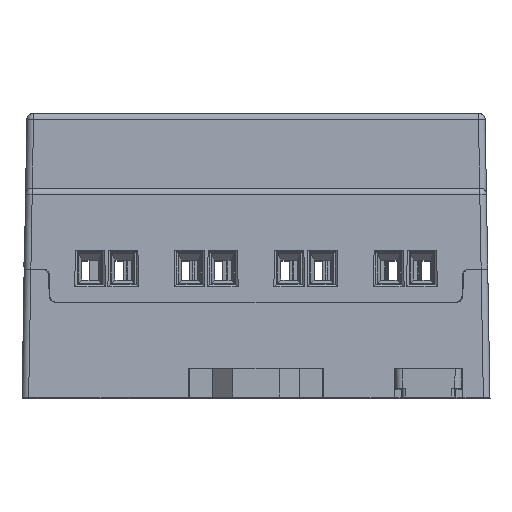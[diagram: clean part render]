
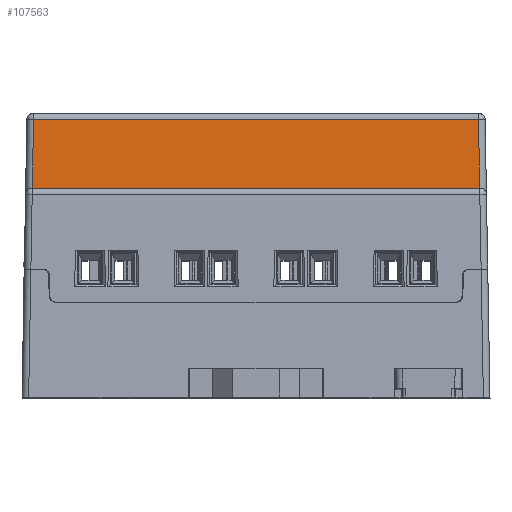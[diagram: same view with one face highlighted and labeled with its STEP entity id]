
A CAD part, top view. The second image highlights one B-rep face of the part: STEP entity #107563.
In plain terms, the highlighted planar face has unit normal (0, 0.018, 1).
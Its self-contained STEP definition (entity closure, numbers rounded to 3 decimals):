
#5709 = VECTOR ( 'NONE', #27781, 1000. ) ;
#8569 = CARTESIAN_POINT ( 'NONE',  ( -74.366, 31.032, 34.5 ) ) ;
#10416 = VERTEX_POINT ( 'NONE', #41630 ) ;
#11182 = CARTESIAN_POINT ( 'NONE',  ( -6.965, 31.055, 34.5 ) ) ;
#14677 = VERTEX_POINT ( 'NONE', #11182 ) ;
#27411 = DIRECTION ( 'NONE',  ( 0., 0.017, 1. ) ) ;
#27781 = DIRECTION ( 'NONE',  ( -0.017, 1., -0.017 ) ) ;
#35226 = VERTEX_POINT ( 'NONE', #48745 ) ;
#41103 = EDGE_CURVE ( 'NONE', #14677, #73764, #115781, .T. ) ;
#41630 = CARTESIAN_POINT ( 'NONE',  ( -74.365, 31.055, 34.5 ) ) ;
#43109 = ORIENTED_EDGE ( 'NONE', *, *, #57684, .T. ) ;
#47792 = PLANE ( 'NONE',  #122360 ) ;
#48745 = CARTESIAN_POINT ( 'NONE',  ( -74.185, 41.372, 34.32 ) ) ;
#49282 = DIRECTION ( 'NONE',  ( -1., 0., 0. ) ) ;
#57684 = EDGE_CURVE ( 'NONE', #10416, #14677, #108168, .T. ) ;
#65346 = LINE ( 'NONE', #8569, #113943 ) ;
#66575 = EDGE_CURVE ( 'NONE', #35226, #10416, #65346, .T. ) ;
#73383 = LINE ( 'NONE', #111260, #128492 ) ;
#73764 = VERTEX_POINT ( 'NONE', #124338 ) ;
#76347 = ORIENTED_EDGE ( 'NONE', *, *, #41103, .T. ) ;
#79376 = CARTESIAN_POINT ( 'NONE',  ( -6.986, 32.253, 34.479 ) ) ;
#80726 = DIRECTION ( 'NONE',  ( 1., 0., 0. ) ) ;
#89391 = CARTESIAN_POINT ( 'NONE',  ( -75.665, 31.055, 34.5 ) ) ;
#91361 = DIRECTION ( 'NONE',  ( -0.017, -1., 0.017 ) ) ;
#99836 = DIRECTION ( 'NONE',  ( 0., -1., 0.017 ) ) ;
#107563 = ADVANCED_FACE ( 'NONE', ( #108819 ), #47792, .T. ) ;
#108168 = LINE ( 'NONE', #132322, #132481 ) ;
#108819 = FACE_OUTER_BOUND ( 'NONE', #108955, .T. ) ;
#108955 = EDGE_LOOP ( 'NONE', ( #130174, #121029, #43109, #76347 ) ) ;
#111260 = CARTESIAN_POINT ( 'NONE',  ( -75.168, 41.372, 34.32 ) ) ;
#113943 = VECTOR ( 'NONE', #91361, 1000. ) ;
#115781 = LINE ( 'NONE', #79376, #5709 ) ;
#118949 = EDGE_CURVE ( 'NONE', #73764, #35226, #73383, .T. ) ;
#121029 = ORIENTED_EDGE ( 'NONE', *, *, #66575, .T. ) ;
#122360 = AXIS2_PLACEMENT_3D ( 'NONE', #89391, #27411, #99836 ) ;
#124338 = CARTESIAN_POINT ( 'NONE',  ( -7.145, 41.372, 34.32 ) ) ;
#128492 = VECTOR ( 'NONE', #49282, 1000. ) ;
#130174 = ORIENTED_EDGE ( 'NONE', *, *, #118949, .T. ) ;
#132322 = CARTESIAN_POINT ( 'NONE',  ( -75.665, 31.055, 34.5 ) ) ;
#132481 = VECTOR ( 'NONE', #80726, 1000. ) ;
